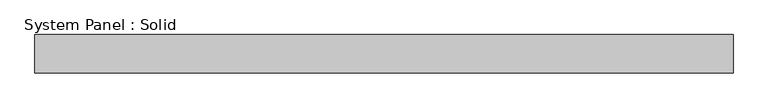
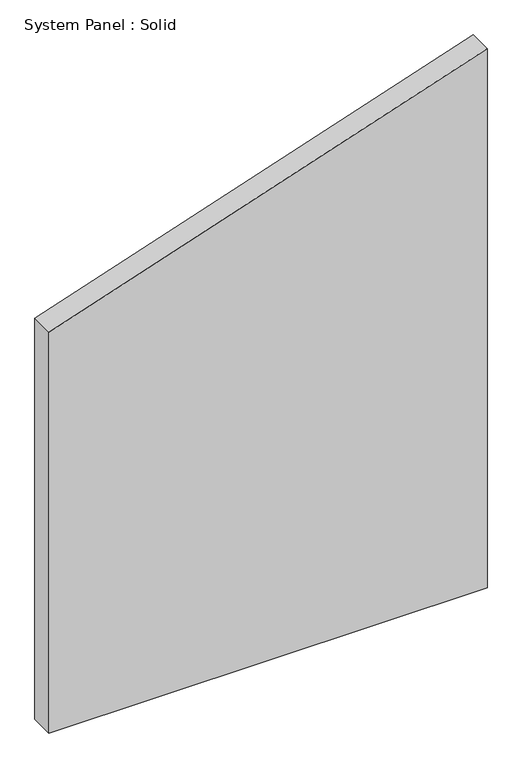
"""IFC4 building model written with IfcOpenShell, lengths in millimetres: plate geometry, System Panel : Solid."""

from ifc_helpers import new_model, si_unit, frame, origin, place, context, project, spatial, polyline, outline, extrude, source, transform, mapped, element, save


def system_panel_solid_7245e66f(model_context):
    return source(origin(), model_context, "Body", "SweptSolid", [
        extrude(outline(polyline([(0.0, -549.4999998), (0.0, 549.4999998), (1429.5967244, 549.4999998), (1062.7294124, -549.4999998), (0.0, -549.4999998)])), frame((0.0, -10.5, 0.0), z_axis=(0.0, 1.0, 0.0), x_axis=(0.0, 0.0, 1.0)), (0.0, 0.0, 1.0), 60.0),
    ])


if __name__ == "__main__":
    model = new_model("IFC4")
    model_context = context("Model", 3, world=origin())
    ifc_project = project(units=[si_unit("LENGTHUNIT", "METRE", prefix="MILLI")], contexts=[model_context])
    site = spatial("IfcSite", under=ifc_project)
    building = spatial("IfcBuilding", under=site)
    placement = place(None, origin())
    system_panel_solid_shape = system_panel_solid_7245e66f(model_context)
    element("IfcPlate", 1, ObjectType="System Panel : Solid", at=placement, inside=building, context=model_context, shape_type="MappedRepresentation", body=[
        mapped(system_panel_solid_shape, transform((0.0, 0.0, 0.0), x_axis=(1.0, 0.0, 0.0), y_axis=(0.0, 1.0, 0.0), z_axis=(0.0, 0.0, 1.0))),
    ])
    save(model, "model.ifc")
